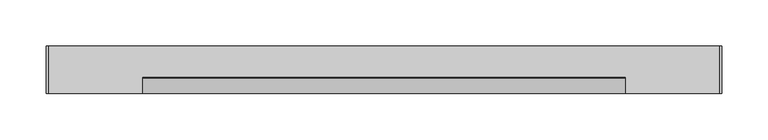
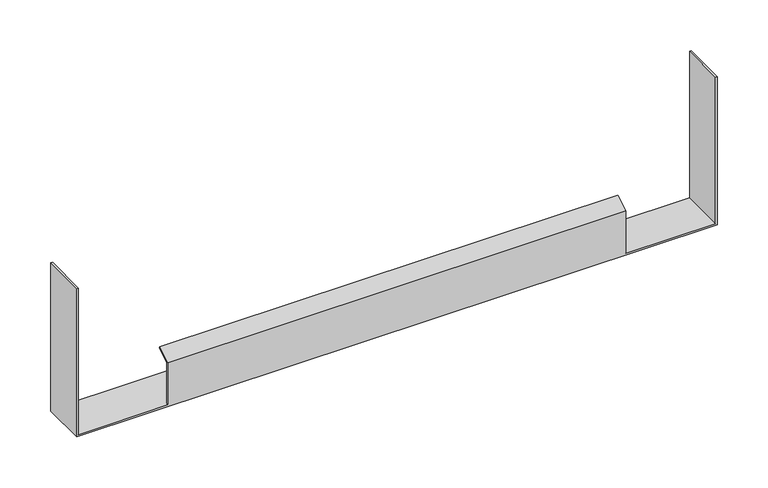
"""IFC4 building model written with IfcOpenShell, lengths in millimetres: proxy geometry, FOUNDATION^PO 2_LIFT TOP-WIRE TROUGH."""

from ifc_helpers import new_model, si_unit, origin, place, context, project, spatial, faceted_brep, source, transform, mapped, element, save


def generic_models_d897bd4b(model_context):
    return source(origin(), model_context, "Body", "Brep", [
        faceted_brep([(103.49738, -50.8, 0.0), (103.49738, -48.90262, 0.0), (623.57762, -48.90262, 0.0), (623.57762, -50.8, 0.0), (725.17762, -50.8, 0.0), (725.17762, 0.0, 0.0), (1.89738, 0.0, 0.0), (1.89738, -50.8, 0.0), (0.0, -50.8, -1.89738), (0.0, 0.0, -1.89738), (727.075, 0.0, -1.89738), (727.075, -50.8, -1.89738), (623.57762, -48.90262, 49.7045471), (103.49738, -48.90262, 49.7045471), (623.57762, -50.8, 50.8), (623.57762, -34.925, 59.9654355), (103.49738, -34.925, 59.9654355), (103.49738, -50.8, 50.8), (623.57762, -33.97631, 58.3222562), (103.49738, -33.97631, 58.3222562), (725.17762, -50.8, 175.90262), (725.17762, 0.0, 175.90262), (727.075, -50.8, 175.90262), (727.075, 0.0, 175.90262), (1.89738, 0.0, 175.90262), (1.89738, -50.8, 175.90262), (0.0, -50.8, 175.90262), (0.0, 0.0, 175.90262)], [[[0, 1, 2, 3, 4, 5, 6, 7]], [[8, 9, 10, 11]], [[12, 2, 1, 13]], [[14, 15, 16, 17]], [[15, 18, 19, 16]], [[18, 12, 13, 19]], [[1, 0, 17, 16, 19, 13]], [[14, 3, 2, 12, 18, 15]], [[5, 4, 20, 21]], [[20, 22, 23, 21]], [[7, 6, 24, 25]], [[26, 25, 24, 27]], [[9, 27, 24, 6, 5, 21, 23, 10]], [[26, 8, 11, 22, 20, 4, 3, 14, 17, 0, 7, 25]], [[22, 11, 10, 23]], [[8, 26, 27, 9]]]),
    ])


if __name__ == "__main__":
    model = new_model("IFC4")
    model_context = context("Model", 3, world=origin())
    ifc_project = project(units=[si_unit("LENGTHUNIT", "METRE", prefix="MILLI")], contexts=[model_context])
    site = spatial("IfcSite", under=ifc_project)
    building = spatial("IfcBuilding", under=site)
    placement = place(None, origin())
    generic_models_shape = generic_models_d897bd4b(model_context)
    element("IfcBuildingElementProxy", 1, Name="FOUNDATION^PO 2_LIFT TOP-WIRE TROUGH", ObjectType="FOUNDATION^PO 2_LIFT TOP-WIRE TROUGH", at=placement, inside=building, context=model_context, shape_type="MappedRepresentation", body=[
        mapped(generic_models_shape, transform((0.0, 0.0, 0.0), x_axis=(1.0, 0.0, 0.0), y_axis=(0.0, 1.0, 0.0), z_axis=(0.0, 0.0, 1.0))),
    ])
    save(model, "model.ifc")
